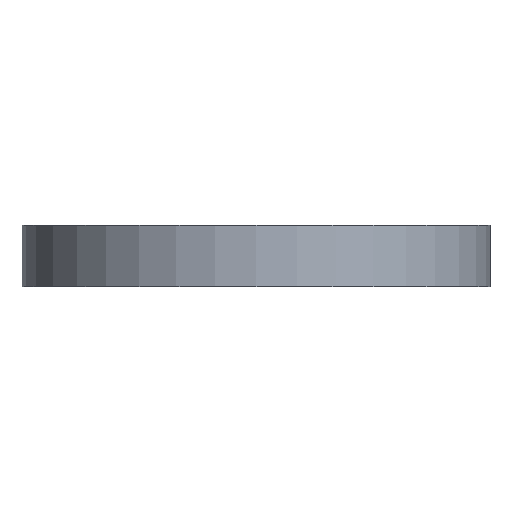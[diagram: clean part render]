
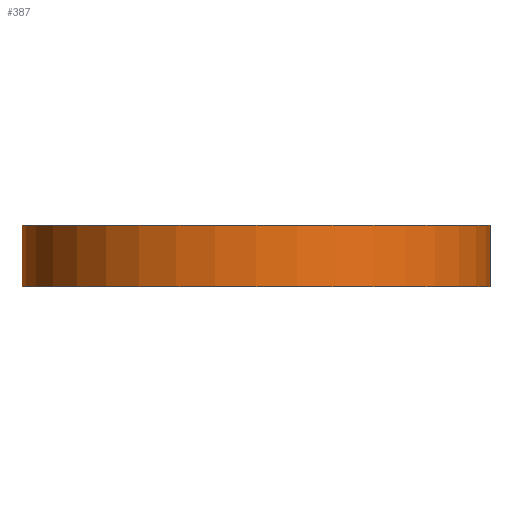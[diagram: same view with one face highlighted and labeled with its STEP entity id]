
A CAD part, left-side view. The second image highlights one B-rep face of the part: STEP entity #387.
In plain terms, the highlighted cylindrical face has radius 23 mm (diameter 46 mm), a partial arc.
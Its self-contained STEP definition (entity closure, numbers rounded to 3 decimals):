
#22 = VERTEX_POINT('',#23);
#23 = CARTESIAN_POINT('',(-16.,-23.,6.));
#32 = PLANE('',#33);
#33 = AXIS2_PLACEMENT_3D('',#34,#35,#36);
#34 = CARTESIAN_POINT('',(-16.,-23.,6.));
#35 = DIRECTION('',(0.,0.,1.));
#36 = DIRECTION('',(1.,0.,0.));
#44 = PLANE('',#45);
#45 = AXIS2_PLACEMENT_3D('',#46,#47,#48);
#46 = CARTESIAN_POINT('',(-16.,-23.,0.));
#47 = DIRECTION('',(0.,1.,0.));
#48 = DIRECTION('',(0.,0.,1.));
#86 = VERTEX_POINT('',#87);
#87 = CARTESIAN_POINT('',(-16.,23.,6.));
#101 = PLANE('',#102);
#102 = AXIS2_PLACEMENT_3D('',#103,#104,#105);
#103 = CARTESIAN_POINT('',(-16.,23.,0.));
#104 = DIRECTION('',(0.,1.,0.));
#105 = DIRECTION('',(0.,0.,1.));
#113 = EDGE_CURVE('',#86,#22,#114,.T.);
#114 = SURFACE_CURVE('',#115,(#120,#127),.PCURVE_S1.);
#115 = CIRCLE('',#116,23.);
#116 = AXIS2_PLACEMENT_3D('',#117,#118,#119);
#117 = CARTESIAN_POINT('',(-16.,0.,6.));
#118 = DIRECTION('',(0.,0.,1.));
#119 = DIRECTION('',(1.,0.,0.));
#120 = PCURVE('',#32,#121);
#121 = DEFINITIONAL_REPRESENTATION('',(#122),#126);
#122 = CIRCLE('',#123,23.);
#123 = AXIS2_PLACEMENT_2D('',#124,#125);
#124 = CARTESIAN_POINT('',(0.,23.));
#125 = DIRECTION('',(1.,0.));
#126 = ( GEOMETRIC_REPRESENTATION_CONTEXT(2) 
PARAMETRIC_REPRESENTATION_CONTEXT() REPRESENTATION_CONTEXT('2D SPACE',''
  ) );
#127 = PCURVE('',#128,#133);
#128 = CYLINDRICAL_SURFACE('',#129,23.);
#129 = AXIS2_PLACEMENT_3D('',#130,#131,#132);
#130 = CARTESIAN_POINT('',(-16.,0.,0.));
#131 = DIRECTION('',(-0.,-0.,-1.));
#132 = DIRECTION('',(1.,0.,0.));
#133 = DEFINITIONAL_REPRESENTATION('',(#134),#138);
#134 = LINE('',#135,#136);
#135 = CARTESIAN_POINT('',(-0.,-6.));
#136 = VECTOR('',#137,1.);
#137 = DIRECTION('',(-1.,0.));
#138 = ( GEOMETRIC_REPRESENTATION_CONTEXT(2) 
PARAMETRIC_REPRESENTATION_CONTEXT() REPRESENTATION_CONTEXT('2D SPACE',''
  ) );
#264 = VERTEX_POINT('',#265);
#265 = CARTESIAN_POINT('',(-16.,-23.,0.));
#281 = PLANE('',#282);
#282 = AXIS2_PLACEMENT_3D('',#283,#284,#285);
#283 = CARTESIAN_POINT('',(-16.,-23.,0.));
#284 = DIRECTION('',(0.,0.,1.));
#285 = DIRECTION('',(1.,0.,0.));
#293 = EDGE_CURVE('',#264,#22,#294,.T.);
#294 = SURFACE_CURVE('',#295,(#299,#306),.PCURVE_S1.);
#295 = LINE('',#296,#297);
#296 = CARTESIAN_POINT('',(-16.,-23.,0.));
#297 = VECTOR('',#298,1.);
#298 = DIRECTION('',(0.,0.,1.));
#299 = PCURVE('',#44,#300);
#300 = DEFINITIONAL_REPRESENTATION('',(#301),#305);
#301 = LINE('',#302,#303);
#302 = CARTESIAN_POINT('',(0.,0.));
#303 = VECTOR('',#304,1.);
#304 = DIRECTION('',(1.,0.));
#305 = ( GEOMETRIC_REPRESENTATION_CONTEXT(2) 
PARAMETRIC_REPRESENTATION_CONTEXT() REPRESENTATION_CONTEXT('2D SPACE',''
  ) );
#306 = PCURVE('',#128,#307);
#307 = DEFINITIONAL_REPRESENTATION('',(#308),#312);
#308 = LINE('',#309,#310);
#309 = CARTESIAN_POINT('',(-4.712,0.));
#310 = VECTOR('',#311,1.);
#311 = DIRECTION('',(-0.,-1.));
#312 = ( GEOMETRIC_REPRESENTATION_CONTEXT(2) 
PARAMETRIC_REPRESENTATION_CONTEXT() REPRESENTATION_CONTEXT('2D SPACE',''
  ) );
#387 = ADVANCED_FACE('',(#388),#128,.T.);
#388 = FACE_BOUND('',#389,.F.);
#389 = EDGE_LOOP('',(#390,#414,#435,#436));
#390 = ORIENTED_EDGE('',*,*,#391,.F.);
#391 = EDGE_CURVE('',#392,#264,#394,.T.);
#392 = VERTEX_POINT('',#393);
#393 = CARTESIAN_POINT('',(-16.,23.,0.));
#394 = SURFACE_CURVE('',#395,(#400,#407),.PCURVE_S1.);
#395 = CIRCLE('',#396,23.);
#396 = AXIS2_PLACEMENT_3D('',#397,#398,#399);
#397 = CARTESIAN_POINT('',(-16.,0.,0.));
#398 = DIRECTION('',(0.,0.,1.));
#399 = DIRECTION('',(1.,0.,0.));
#400 = PCURVE('',#128,#401);
#401 = DEFINITIONAL_REPRESENTATION('',(#402),#406);
#402 = LINE('',#403,#404);
#403 = CARTESIAN_POINT('',(-0.,0.));
#404 = VECTOR('',#405,1.);
#405 = DIRECTION('',(-1.,0.));
#406 = ( GEOMETRIC_REPRESENTATION_CONTEXT(2) 
PARAMETRIC_REPRESENTATION_CONTEXT() REPRESENTATION_CONTEXT('2D SPACE',''
  ) );
#407 = PCURVE('',#281,#408);
#408 = DEFINITIONAL_REPRESENTATION('',(#409),#413);
#409 = CIRCLE('',#410,23.);
#410 = AXIS2_PLACEMENT_2D('',#411,#412);
#411 = CARTESIAN_POINT('',(0.,23.));
#412 = DIRECTION('',(1.,0.));
#413 = ( GEOMETRIC_REPRESENTATION_CONTEXT(2) 
PARAMETRIC_REPRESENTATION_CONTEXT() REPRESENTATION_CONTEXT('2D SPACE',''
  ) );
#414 = ORIENTED_EDGE('',*,*,#415,.T.);
#415 = EDGE_CURVE('',#392,#86,#416,.T.);
#416 = SURFACE_CURVE('',#417,(#421,#428),.PCURVE_S1.);
#417 = LINE('',#418,#419);
#418 = CARTESIAN_POINT('',(-16.,23.,0.));
#419 = VECTOR('',#420,1.);
#420 = DIRECTION('',(0.,0.,1.));
#421 = PCURVE('',#128,#422);
#422 = DEFINITIONAL_REPRESENTATION('',(#423),#427);
#423 = LINE('',#424,#425);
#424 = CARTESIAN_POINT('',(-1.571,0.));
#425 = VECTOR('',#426,1.);
#426 = DIRECTION('',(-0.,-1.));
#427 = ( GEOMETRIC_REPRESENTATION_CONTEXT(2) 
PARAMETRIC_REPRESENTATION_CONTEXT() REPRESENTATION_CONTEXT('2D SPACE',''
  ) );
#428 = PCURVE('',#101,#429);
#429 = DEFINITIONAL_REPRESENTATION('',(#430),#434);
#430 = LINE('',#431,#432);
#431 = CARTESIAN_POINT('',(0.,0.));
#432 = VECTOR('',#433,1.);
#433 = DIRECTION('',(1.,0.));
#434 = ( GEOMETRIC_REPRESENTATION_CONTEXT(2) 
PARAMETRIC_REPRESENTATION_CONTEXT() REPRESENTATION_CONTEXT('2D SPACE',''
  ) );
#435 = ORIENTED_EDGE('',*,*,#113,.T.);
#436 = ORIENTED_EDGE('',*,*,#293,.F.);
